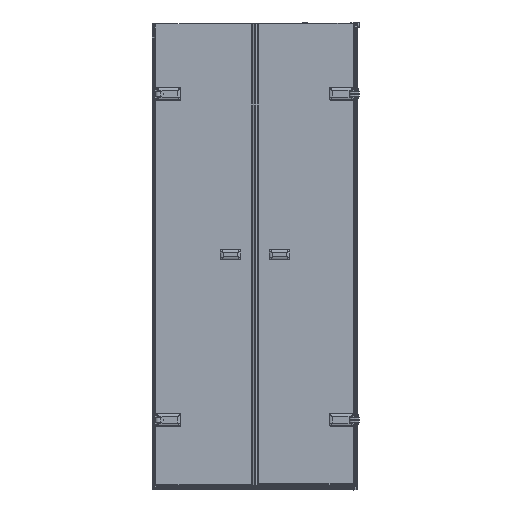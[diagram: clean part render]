
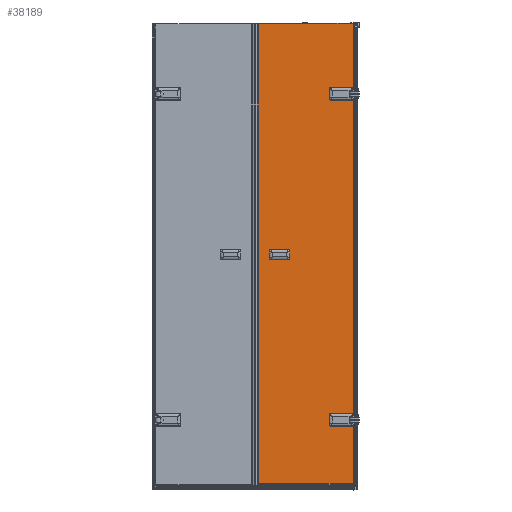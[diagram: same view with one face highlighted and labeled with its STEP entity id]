
A CAD part, front view. The second image highlights one B-rep face of the part: STEP entity #38189.
In plain terms, the highlighted planar face has unit normal (0, -1, 0).
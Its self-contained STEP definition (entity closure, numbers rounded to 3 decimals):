
#1244=PLANE($,#41310);
#3116=LINE($,#73964,#6542);
#3120=LINE($,#73976,#6546);
#3124=LINE($,#73987,#6550);
#3229=LINE($,#74696,#6655);
#3235=LINE($,#74709,#6661);
#3704=LINE($,#76414,#7130);
#3708=LINE($,#76426,#7134);
#3712=LINE($,#76437,#7138);
#3810=LINE($,#77129,#7236);
#4155=LINE($,#79017,#7581);
#4193=LINE($,#79131,#7619);
#4194=LINE($,#79132,#7620);
#6542=VECTOR($,#46297,96.);
#6546=VECTOR($,#46309,42.);
#6550=VECTOR($,#46321,96.);
#6655=VECTOR($,#46700,1348.344);
#6661=VECTOR($,#46712,254.172);
#7130=VECTOR($,#47913,96.);
#7134=VECTOR($,#47925,42.);
#7138=VECTOR($,#47937,96.);
#7236=VECTOR($,#48305,274.172);
#7581=VECTOR($,#49328,411.3);
#7619=VECTOR($,#49440,1980.);
#7620=VECTOR($,#49441,411.3);
#9369=CIRCLE($,#40179,5.);
#9374=CIRCLE($,#40189,5.);
#9421=CIRCLE($,#40279,5.);
#9423=CIRCLE($,#40283,5.);
#9565=CIRCLE($,#40698,5.);
#9569=CIRCLE($,#40706,5.);
#9613=CIRCLE($,#40793,5.);
#9615=CIRCLE($,#40797,5.);
#9809=CIRCLE($,#41311,5.5);
#9810=CIRCLE($,#41312,5.5);
#10451=FACE_BOUND($,#14135,.T.);
#10452=FACE_BOUND($,#14136,.T.);
#11856=FACE_OUTER_BOUND($,#14134,.T.);
#14134=EDGE_LOOP($,(#30863,#30864,#30865,#30866,#30867,#30868,#30869,#30870,
#30871,#30872,#30873,#30874,#30875,#30876,#30877,#30878,#30879,#30880,#30881,
#30882));
#14135=EDGE_LOOP($,(#30883));
#14136=EDGE_LOOP($,(#30884));
#16514=VERTEX_POINT($,#73534);
#16515=VERTEX_POINT($,#73536);
#16522=VERTEX_POINT($,#73555);
#16527=VERTEX_POINT($,#73570);
#16672=VERTEX_POINT($,#73963);
#16674=VERTEX_POINT($,#73969);
#16676=VERTEX_POINT($,#73975);
#16678=VERTEX_POINT($,#73981);
#16778=VERTEX_POINT($,#74694);
#16782=VERTEX_POINT($,#74708);
#17092=VERTEX_POINT($,#76009);
#17093=VERTEX_POINT($,#76011);
#17100=VERTEX_POINT($,#76037);
#17236=VERTEX_POINT($,#76413);
#17238=VERTEX_POINT($,#76419);
#17240=VERTEX_POINT($,#76425);
#17242=VERTEX_POINT($,#76431);
#17334=VERTEX_POINT($,#77127);
#17690=VERTEX_POINT($,#79015);
#17729=VERTEX_POINT($,#79130);
#17730=VERTEX_POINT($,#79133);
#17731=VERTEX_POINT($,#79135);
#20477=EDGE_CURVE($,#16515,#16514,#9369,.T.);
#20492=EDGE_CURVE($,#16522,#16527,#9374,.T.);
#20689=EDGE_CURVE($,#16527,#16672,#3116,.T.);
#20692=EDGE_CURVE($,#16672,#16674,#9421,.T.);
#20695=EDGE_CURVE($,#16674,#16676,#3120,.T.);
#20698=EDGE_CURVE($,#16676,#16678,#9423,.T.);
#20701=EDGE_CURVE($,#16678,#16515,#3124,.T.);
#20879=EDGE_CURVE($,#16514,#16778,#3229,.T.);
#20885=EDGE_CURVE($,#16782,#16522,#3235,.T.);
#21352=EDGE_CURVE($,#17093,#17092,#9565,.T.);
#21364=EDGE_CURVE($,#16778,#17100,#9569,.T.);
#21553=EDGE_CURVE($,#17100,#17236,#3704,.T.);
#21556=EDGE_CURVE($,#17236,#17238,#9613,.T.);
#21559=EDGE_CURVE($,#17238,#17240,#3708,.T.);
#21562=EDGE_CURVE($,#17240,#17242,#9615,.T.);
#21565=EDGE_CURVE($,#17242,#17093,#3712,.T.);
#21734=EDGE_CURVE($,#17092,#17334,#3810,.T.);
#22271=EDGE_CURVE($,#17690,#17334,#4155,.T.);
#22330=EDGE_CURVE($,#17729,#17690,#4193,.T.);
#22331=EDGE_CURVE($,#17729,#16782,#4194,.T.);
#22332=EDGE_CURVE($,#17730,#17730,#9809,.T.);
#22333=EDGE_CURVE($,#17731,#17731,#9810,.T.);
#30863=ORIENTED_EDGE($,*,*,#20477,.T.);
#30864=ORIENTED_EDGE($,*,*,#20879,.T.);
#30865=ORIENTED_EDGE($,*,*,#21364,.T.);
#30866=ORIENTED_EDGE($,*,*,#21553,.T.);
#30867=ORIENTED_EDGE($,*,*,#21556,.T.);
#30868=ORIENTED_EDGE($,*,*,#21559,.T.);
#30869=ORIENTED_EDGE($,*,*,#21562,.T.);
#30870=ORIENTED_EDGE($,*,*,#21565,.T.);
#30871=ORIENTED_EDGE($,*,*,#21352,.T.);
#30872=ORIENTED_EDGE($,*,*,#21734,.T.);
#30873=ORIENTED_EDGE($,*,*,#22271,.F.);
#30874=ORIENTED_EDGE($,*,*,#22330,.F.);
#30875=ORIENTED_EDGE($,*,*,#22331,.T.);
#30876=ORIENTED_EDGE($,*,*,#20885,.T.);
#30877=ORIENTED_EDGE($,*,*,#20492,.T.);
#30878=ORIENTED_EDGE($,*,*,#20689,.T.);
#30879=ORIENTED_EDGE($,*,*,#20692,.T.);
#30880=ORIENTED_EDGE($,*,*,#20695,.T.);
#30881=ORIENTED_EDGE($,*,*,#20698,.T.);
#30882=ORIENTED_EDGE($,*,*,#20701,.T.);
#30883=ORIENTED_EDGE($,*,*,#22332,.T.);
#30884=ORIENTED_EDGE($,*,*,#22333,.T.);
#38189=ADVANCED_FACE($,(#11856,#10451,#10452),#1244,.T.);
#40179=AXIS2_PLACEMENT_3D($,#73537,#45946,#45947);
#40189=AXIS2_PLACEMENT_3D($,#73572,#45973,#45974);
#40279=AXIS2_PLACEMENT_3D($,#73970,#46302,#46303);
#40283=AXIS2_PLACEMENT_3D($,#73982,#46314,#46315);
#40698=AXIS2_PLACEMENT_3D($,#76012,#47578,#47579);
#40706=AXIS2_PLACEMENT_3D($,#76039,#47600,#47601);
#40793=AXIS2_PLACEMENT_3D($,#76420,#47918,#47919);
#40797=AXIS2_PLACEMENT_3D($,#76432,#47930,#47931);
#41310=AXIS2_PLACEMENT_3D($,#79129,#49438,#49439);
#41311=AXIS2_PLACEMENT_3D($,#79134,#49442,#49443);
#41312=AXIS2_PLACEMENT_3D($,#79136,#49444,#49445);
#45946=DIRECTION('center_axis',(0.,1.,0.));
#45947=DIRECTION('ref_axis',(-1.,0.,0.));
#45973=DIRECTION('center_axis',(0.,1.,0.));
#45974=DIRECTION('ref_axis',(0.,0.,
1.));
#46297=DIRECTION($,(-1.,0.,0.));
#46302=DIRECTION('center_axis',(0.,1.,0.));
#46303=DIRECTION('ref_axis',(1.,0.,0.));
#46309=DIRECTION($,(0.,0.,1.));
#46314=DIRECTION('center_axis',(0.,1.,0.));
#46315=DIRECTION('ref_axis',(0.,0.,
-1.));
#46321=DIRECTION($,(1.,0.,0.));
#46700=DIRECTION($,(0.,0.,1.));
#46712=DIRECTION($,(0.,0.,1.));
#47578=DIRECTION('center_axis',(0.,1.,0.));
#47579=DIRECTION('ref_axis',(-1.,0.,0.));
#47600=DIRECTION('center_axis',(0.,1.,0.));
#47601=DIRECTION('ref_axis',(0.,0.,
1.));
#47913=DIRECTION($,(-1.,0.,0.));
#47918=DIRECTION('center_axis',(0.,1.,0.));
#47919=DIRECTION('ref_axis',(1.,0.,0.));
#47925=DIRECTION($,(0.,0.,1.));
#47930=DIRECTION('center_axis',(0.,1.,0.));
#47931=DIRECTION('ref_axis',(0.,0.,
-1.));
#47937=DIRECTION($,(1.,0.,0.));
#48305=DIRECTION($,(0.,0.,1.));
#49328=DIRECTION($,(1.,0.,0.));
#49438=DIRECTION('center_axis',(0.,-1.,0.));
#49439=DIRECTION('ref_axis',(1.,0.,0.));
#49440=DIRECTION($,(0.,0.,1.));
#49441=DIRECTION($,(1.,0.,0.));
#49442=DIRECTION('center_axis',(0.,1.,0.));
#49443=DIRECTION('ref_axis',(1.,0.,0.));
#49444=DIRECTION('center_axis',(0.,1.,0.));
#49445=DIRECTION('ref_axis',(1.,0.,0.));
#73534=CARTESIAN_POINT('',(1230.319,-33.393,-188.227));
#73536=CARTESIAN_POINT('',(1229.019,-33.393,-188.056));
#73537=CARTESIAN_POINT('Origin',(1229.019,-33.393,-193.056));
#73555=CARTESIAN_POINT('',(1230.319,-33.393,-239.884));
#73570=CARTESIAN_POINT('',(1229.019,-33.393,-240.056));
#73572=CARTESIAN_POINT('Origin',(1229.019,-33.393,-235.056));
#73963=CARTESIAN_POINT('',(1133.019,-33.393,-240.056));
#73964=CARTESIAN_POINT($,(976.019,-33.393,-240.056));
#73969=CARTESIAN_POINT('',(1128.019,-33.393,-235.056));
#73970=CARTESIAN_POINT('Origin',(1133.019,-33.393,-235.056));
#73975=CARTESIAN_POINT('',(1128.019,-33.393,-193.056));
#73976=CARTESIAN_POINT($,(1128.019,-33.393,-343.556));
#73981=CARTESIAN_POINT('',(1133.019,-33.393,-188.056));
#73982=CARTESIAN_POINT('Origin',(1133.019,-33.393,-193.056));
#73987=CARTESIAN_POINT($,(1024.019,-33.393,-188.056));
#74694=CARTESIAN_POINT('',(1230.319,-33.393,1160.116));
#74696=CARTESIAN_POINT($,(1230.319,-33.393,-349.056));
#74708=CARTESIAN_POINT('',(1230.319,-33.393,-494.056));
#74709=CARTESIAN_POINT($,(1230.319,-33.393,-504.056));
#76009=CARTESIAN_POINT('',(1230.319,-33.393,1211.773));
#76011=CARTESIAN_POINT('',(1229.019,-33.393,1211.944));
#76012=CARTESIAN_POINT('Origin',(1229.019,-33.393,1206.944));
#76037=CARTESIAN_POINT('',(1229.019,-33.393,1159.944));
#76039=CARTESIAN_POINT('Origin',(1229.019,-33.393,1164.944));
#76413=CARTESIAN_POINT('',(1133.019,-33.393,1159.944));
#76414=CARTESIAN_POINT($,(976.019,-33.393,1159.944));
#76419=CARTESIAN_POINT('',(1128.019,-33.393,1164.944));
#76420=CARTESIAN_POINT('Origin',(1133.019,-33.393,1164.944));
#76425=CARTESIAN_POINT('',(1128.019,-33.393,1206.944));
#76426=CARTESIAN_POINT($,(1128.019,-33.393,356.444));
#76431=CARTESIAN_POINT('',(1133.019,-33.393,1211.944));
#76432=CARTESIAN_POINT('Origin',(1133.019,-33.393,1206.944));
#76437=CARTESIAN_POINT($,(1024.019,-33.393,1211.944));
#77127=CARTESIAN_POINT('',(1230.319,-33.393,1485.944));
#77129=CARTESIAN_POINT($,(1230.319,-33.393,350.944));
#79015=CARTESIAN_POINT('',(819.019,-33.393,1485.944));
#79017=CARTESIAN_POINT($,(819.019,-33.393,1485.944));
#79129=CARTESIAN_POINT('Origin',(819.019,-33.393,-494.056));
#79130=CARTESIAN_POINT('',(819.019,-33.393,-494.056));
#79131=CARTESIAN_POINT($,(819.019,-33.393,-494.056));
#79132=CARTESIAN_POINT($,(819.019,-33.393,-494.056));
#79133=CARTESIAN_POINT('',(883.519,-33.393,481.944));
#79134=CARTESIAN_POINT('Origin',(889.019,-33.393,481.944));
#79135=CARTESIAN_POINT('',(883.519,-33.393,509.944));
#79136=CARTESIAN_POINT('Origin',(889.019,-33.393,509.944));
